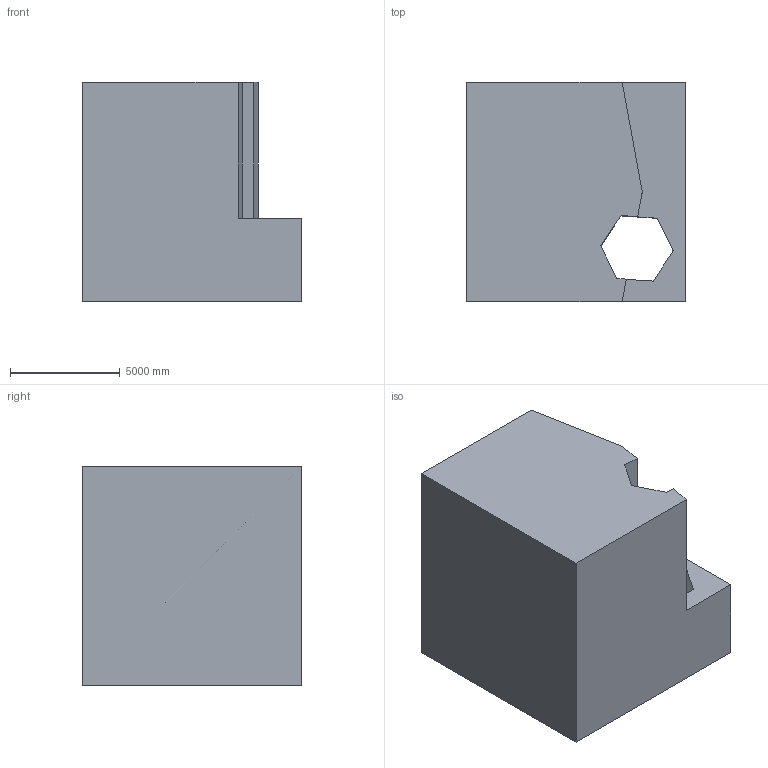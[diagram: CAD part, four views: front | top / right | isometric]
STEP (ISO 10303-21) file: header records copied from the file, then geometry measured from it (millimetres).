
FILE_DESCRIPTION (( 'STEP AP203' ), '1' );
FILE_NAME ('34.STEP', '2022-08-31T11:13:58', ( 'user' ), ( '' ), 'SwSTEP 2.0', 'SolidWorks 2021', '' );
FILE_SCHEMA (( 'CONFIG_CONTROL_DESIGN' ));
Length unit declared in the file: centimetre
Products named in the file (1): 34
Bounding box: 10000 x 10000 x 10000 mm (x, y, z)
Volume: 803667661950.5 mm3; surface area: 598680289.8 mm2
Topology: 1 solids, 1 shells, 16 faces, 45 edges, 30 vertices
Faces by surface type: plane 16
Entity records: 590 total; most frequent: CARTESIAN_POINT 92, ORIENTED_EDGE 90, DIRECTION 79, LINE 45, VECTOR 45, EDGE_CURVE 45, VERTEX_POINT 30, EDGE_LOOP 17
